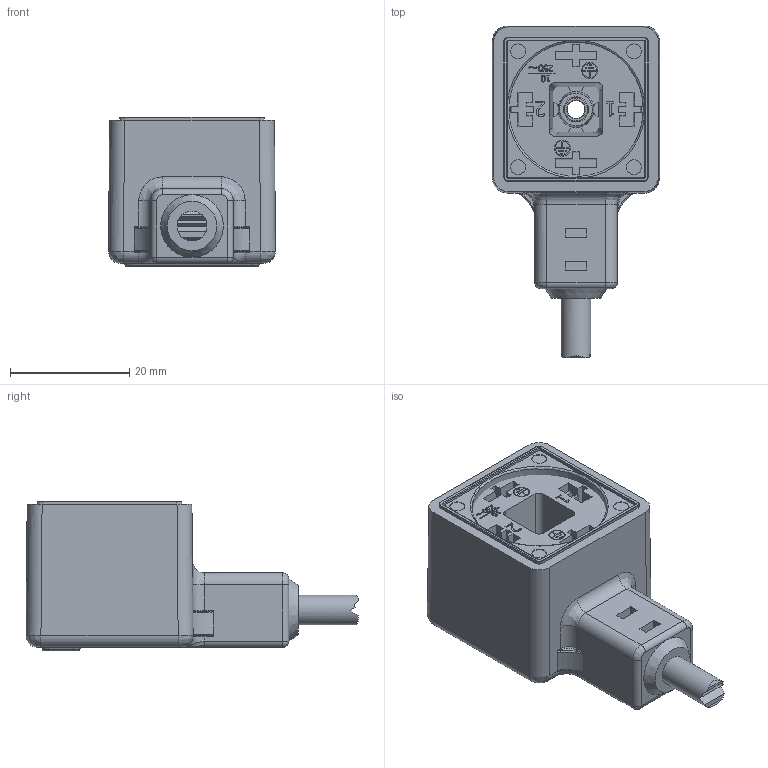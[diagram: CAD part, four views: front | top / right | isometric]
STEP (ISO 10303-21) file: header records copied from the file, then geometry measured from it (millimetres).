
FILE_DESCRIPTION((''),'2;1');
FILE_NAME('C:\Users\enrico\Desktop\Ale\File 3d catalogo\Connettori per attuatori Serie DIN\DIN A.stp','2020-07-17T14:14:21',('Tecnico2'),(''),'Autodesk Inventor 2012','Autodesk Inventor 2012','');
FILE_SCHEMA(('AUTOMOTIVE_DESIGN { 1 0 10303 214 1 1 1 1 }'));
Length unit declared in the file: millimetre
Products named in the file (4): 48018_Din 2P+2T terra H6_H12_forma A; Corpo pvc forma A; connettore 2P+2T forma A; 2701003BI targhettina ciabatte
Assembly tree (3 placements, depth 2):
  48018_Din 2P+2T terra H6_H12_forma A
    Corpo pvc forma A
    connettore 2P+2T forma A
    2701003BI targhettina ciabatte
Bounding box: 27.96 x 55.57 x 25.1 mm (x, y, z)
Volume: 20836.8 mm3; surface area: 12235.1 mm2
Topology: 3 solids, 3 shells, 708 faces, 1795 edges, 1150 vertices
Faces by surface type: plane 385, cylinder 156, bspline 119, torus 29, cone 17, sphere 2
Full cylindrical faces by diameter (mm): 1.4 x1, 1.5 x8, 2.1 x4, 2.41 x2, 2.5 x4, 2.7 x2, 2.8 x4, 3 x1, 3.2 x1, 3.261 x1, 4 x1, 4.261 x1, 5 x2, 22.5 x1
Entity records: 24305 total; most frequent: CARTESIAN_POINT 7951, ORIENTED_EDGE 3430, DIRECTION 3067, EDGE_CURVE 1715, VERTEX_POINT 1130, VECTOR 1079, LINE 1079, AXIS2_PLACEMENT_3D 994
